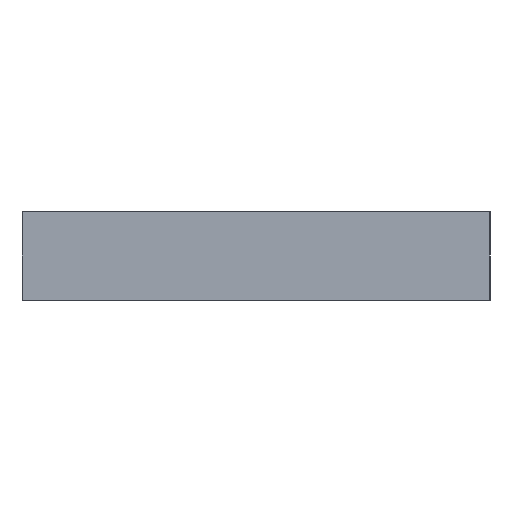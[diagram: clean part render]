
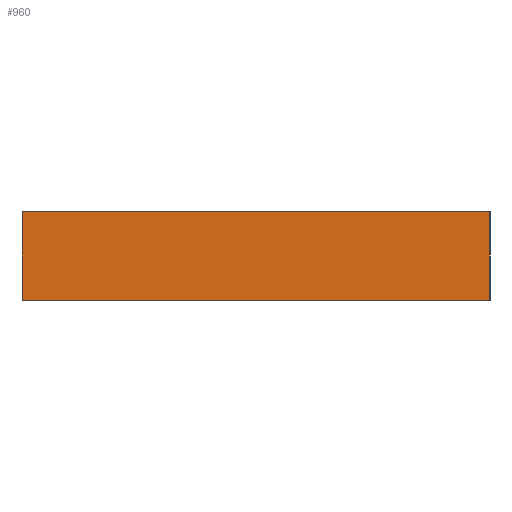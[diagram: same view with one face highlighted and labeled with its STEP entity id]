
A CAD part, left-side view. The second image highlights one B-rep face of the part: STEP entity #960.
In plain terms, the highlighted planar face has unit normal (-1, 0, 0).
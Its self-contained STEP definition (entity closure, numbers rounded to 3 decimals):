
#41 = DIRECTION ( 'NONE',  ( 0., -1., 0. ) ) ;
#42 = VECTOR ( 'NONE', #41, 1000. ) ;
#43 = CARTESIAN_POINT ( 'NONE',  ( 0., 3.8, 10. ) ) ;
#44 = LINE ( 'NONE', #43, #42 ) ;
#51 = FACE_OUTER_BOUND ( 'NONE', #961, .T. ) ;
#55 = DIRECTION ( 'NONE',  ( 0., 0., -1. ) ) ;
#56 = DIRECTION ( 'NONE',  ( 1., 0., 0. ) ) ;
#57 = CARTESIAN_POINT ( 'NONE',  ( 0., 3.8, -10. ) ) ;
#58 = AXIS2_PLACEMENT_3D ( 'NONE', #57, #56, #55 ) ;
#59 = PLANE ( 'NONE',  #58 ) ;
#77 = DIRECTION ( 'NONE',  ( 0., -1., 0. ) ) ;
#78 = VECTOR ( 'NONE', #77, 1000. ) ;
#79 = CARTESIAN_POINT ( 'NONE',  ( 0., 3.8, -10. ) ) ;
#80 = LINE ( 'NONE', #79, #78 ) ;
#227 = DIRECTION ( 'NONE',  ( 0., 0., 1. ) ) ;
#228 = VECTOR ( 'NONE', #227, 1000. ) ;
#230 = CARTESIAN_POINT ( 'NONE',  ( 0., 3.8, -10. ) ) ;
#231 = LINE ( 'NONE', #230, #228 ) ;
#238 = CARTESIAN_POINT ( 'NONE',  ( 0., 3.8, -10. ) ) ;
#242 = CARTESIAN_POINT ( 'NONE',  ( 0., 3.8, 10. ) ) ;
#734 = CARTESIAN_POINT ( 'NONE',  ( 0., 0., 10. ) ) ;
#735 = CARTESIAN_POINT ( 'NONE',  ( 0., 0., -10. ) ) ;
#770 = DIRECTION ( 'NONE',  ( 0., 0., 1. ) ) ;
#771 = VECTOR ( 'NONE', #770, 1000. ) ;
#772 = CARTESIAN_POINT ( 'NONE',  ( 0., 0., -10. ) ) ;
#773 = LINE ( 'NONE', #772, #771 ) ;
#898 = VERTEX_POINT ( 'NONE', #238 ) ;
#899 = VERTEX_POINT ( 'NONE', #242 ) ;
#902 = EDGE_CURVE ( 'NONE', #898, #899, #231, .T. ) ;
#960 = ADVANCED_FACE ( 'NONE', ( #51 ), #59, .F. ) ;
#961 = EDGE_LOOP ( 'NONE', ( #962, #963, #967, #968 ) ) ;
#962 = ORIENTED_EDGE ( 'NONE', *, *, #1355, .T. ) ;
#963 = ORIENTED_EDGE ( 'NONE', *, *, #966, .F. ) ;
#966 = EDGE_CURVE ( 'NONE', #899, #1357, #44, .T. ) ;
#967 = ORIENTED_EDGE ( 'NONE', *, *, #902, .F. ) ;
#968 = ORIENTED_EDGE ( 'NONE', *, *, #1010, .T. ) ;
#1010 = EDGE_CURVE ( 'NONE', #898, #1356, #80, .T. ) ;
#1355 = EDGE_CURVE ( 'NONE', #1356, #1357, #773, .T. ) ;
#1356 = VERTEX_POINT ( 'NONE', #735 ) ;
#1357 = VERTEX_POINT ( 'NONE', #734 ) ;
